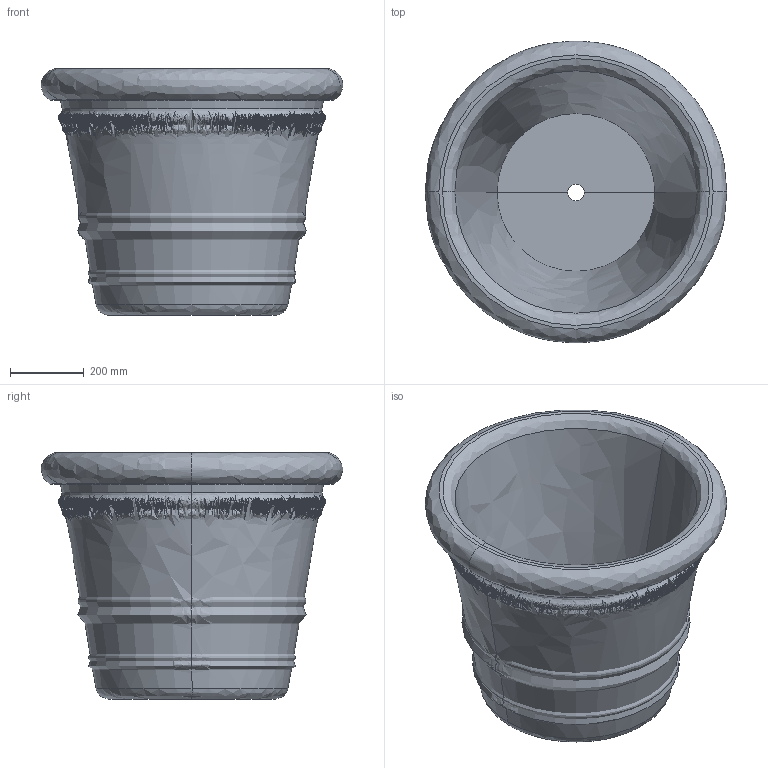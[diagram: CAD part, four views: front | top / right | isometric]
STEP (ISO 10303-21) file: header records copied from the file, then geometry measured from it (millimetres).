
FILE_DESCRIPTION(/* description */ (''),/* implementation_level */ '2;1');
FILE_NAME(/* name */ '80',/* time_stamp */ '2026-07-16T11:00:15+02:00',/* author */ (''),/* organization */ (''),/* preprocessor_version */ 'ST-DEVELOPER v19.2',/* originating_system */ 'Rhino 8.33',/* authorisation */ '');
FILE_SCHEMA (('CONFIG_CONTROL_DESIGN'));
Length unit declared in the file: millimetre
Products named in the file (1): Document
Bounding box: 819.06 x 819.29 x 668.75 mm (x, y, z)
Volume: 66813745.5 mm3; surface area: 3187847.8 mm2
Topology: 1 solids, 1 shells, 22 faces, 44 edges, 24 vertices
Faces by surface type: bspline 16, plane 4, cylinder 2
Entity records: 1632 total; most frequent: CARTESIAN_POINT 1142, ORIENTED_EDGE 88, DIRECTION 70, EDGE_CURVE 44, AXIS2_PLACEMENT_3D 38, TRIMMED_CURVE 30, CIRCLE 30, EDGE_LOOP 24
